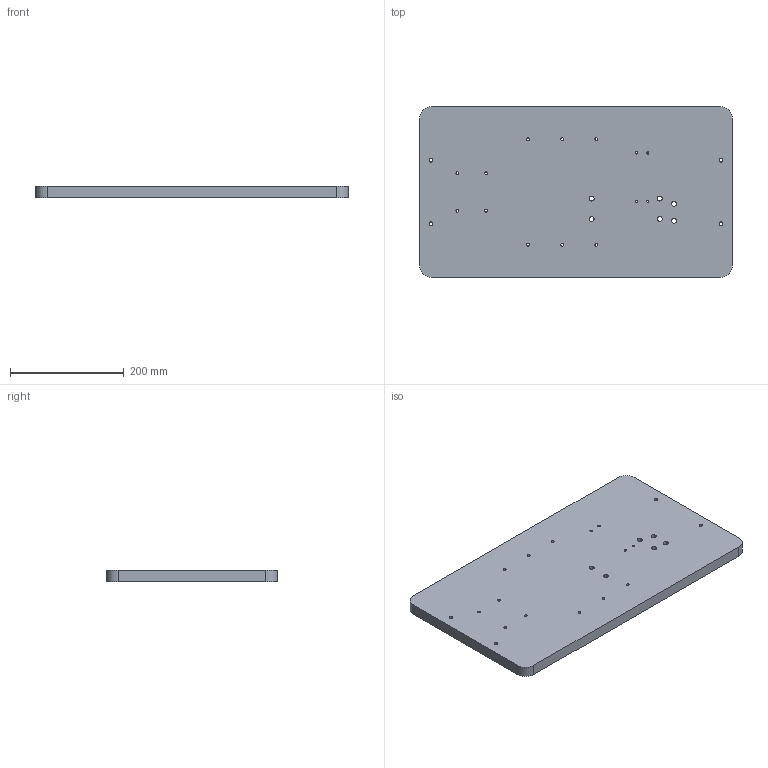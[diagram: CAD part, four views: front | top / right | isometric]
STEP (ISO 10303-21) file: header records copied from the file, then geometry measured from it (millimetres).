
FILE_DESCRIPTION(('CATIA V5 STEP Exchange'),'2;1');
FILE_NAME('D:\姚明阳\1、工装图纸\AGZ131\AGZ131.01_V1.stp','2025-02-06T03:27:01+00:00',('none'),('none'),'CATIA Version 5 Release 20 GA (IN-10)','CATIA V5 STEP AP203','none');
FILE_SCHEMA(('CONFIG_CONTROL_DESIGN'));
Length unit declared in the file: millimetre
Products named in the file (1): AGZ131.01_V1
Bounding box: 550 x 300 x 20 mm (x, y, z)
Volume: 3269287.6 mm3; surface area: 372192.6 mm2
Topology: 1 solids, 1 shells, 100 faces, 252 edges, 168 vertices
Faces by surface type: cylinder 80, plane 20
Entity records: 2824 total; most frequent: ORIENTED_EDGE 504, CARTESIAN_POINT 471, DIRECTION 352, EDGE_CURVE 252, AXIS2_PLACEMENT_3D 211, VERTEX_POINT 168, EDGE_LOOP 162, CIRCLE 160
